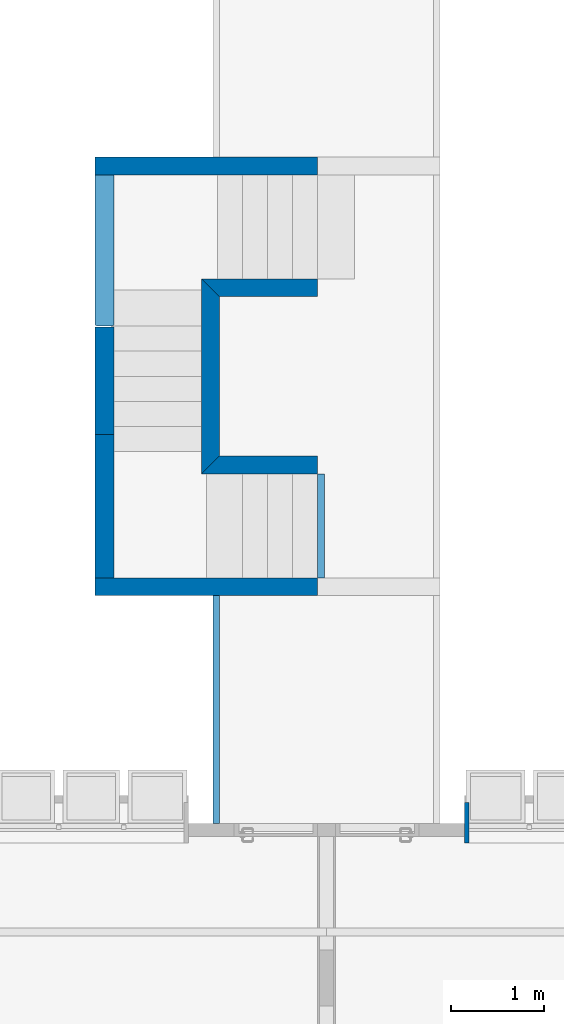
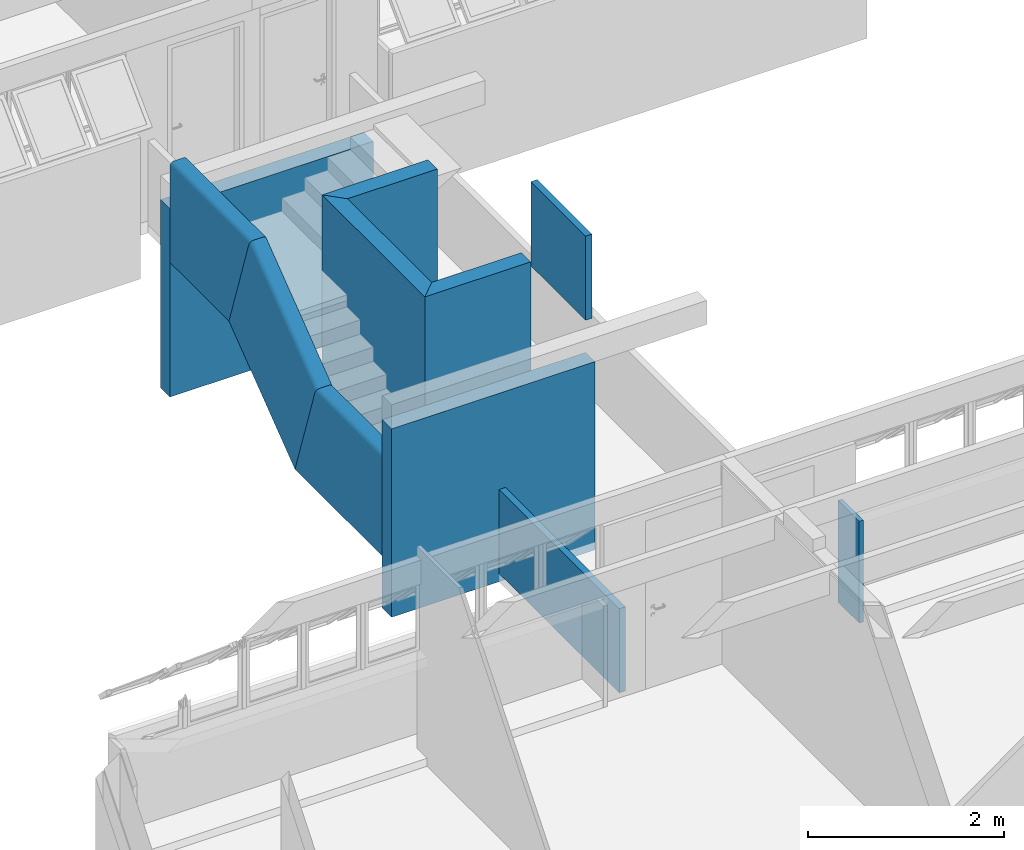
# One storey, part 14 of 38: 11 walls, 1 element without a shape of its own.
"""IFC2X3 building model written with IfcOpenShell, lengths in millimetres."""

from ifc_helpers import new_model, entity, si_unit, converted_unit, derived_unit, money_unit, direction, frame, origin_with_axes, place, context, subcontext, project, spatial, polyline, outline, extrude, faceted_brep, source, transform, mapped, material, layer, layer_set, layer_usage, type_object, element, aggregate, save


model = new_model("IFC2X3")

# Units and contexts
model_context = context("Model", 3, precision=0.01, world=origin_with_axes(), true_north=direction((0.0, 1.0)))
body_context = subcontext(model_context, "Body", "Model", "MODEL_VIEW")
ifc_project = project(units=[si_unit("LENGTHUNIT", "METRE", prefix="MILLI"), si_unit("AREAUNIT", "SQUARE_METRE"), si_unit("VOLUMEUNIT", "CUBIC_METRE"), converted_unit("PLANEANGLEUNIT", "DEGREE", entity("IfcPlaneAngleMeasure", 0.0174532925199), si_unit("PLANEANGLEUNIT", "RADIAN"), dimensions=[0, 0, 0, 0, 0, 0, 0]), money_unit("USD"), converted_unit("TIMEUNIT", "Year", entity("IfcTimeMeasure", 31556926.0), si_unit("TIMEUNIT", "SECOND"), dimensions=[0, 0, 1, 0, 0, 0, 0]), si_unit("MASSUNIT", "GRAM", prefix="KILO"), si_unit("THERMODYNAMICTEMPERATUREUNIT", "DEGREE_CELSIUS"), si_unit("LUMINOUSINTENSITYUNIT", "LUMEN"), si_unit("ENERGYUNIT", "JOULE", prefix="MEGA"), derived_unit("THERMALCONDUCTANCEUNIT", [(si_unit("POWERUNIT", "WATT"), 1), (si_unit("LENGTHUNIT", "METRE"), -1), (si_unit("THERMODYNAMICTEMPERATUREUNIT", "KELVIN"), -1)]), derived_unit("SPECIFICHEATCAPACITYUNIT", [(si_unit("ENERGYUNIT", "JOULE"), 1), (si_unit("MASSUNIT", "GRAM", prefix="KILO"), -1), (si_unit("THERMODYNAMICTEMPERATUREUNIT", "KELVIN"), -1)]), derived_unit("MASSDENSITYUNIT", [(si_unit("MASSUNIT", "GRAM", prefix="KILO"), 1), (si_unit("VOLUMEUNIT", "CUBIC_METRE"), -1)])], contexts=[model_context])

# Site, building, storey
site_placement = place(None, origin_with_axes())
site = spatial("IfcSite", under=ifc_project, at=site_placement, Name="Local", CompositionType="ELEMENT")
building_placement = place(site_placement, origin_with_axes())
building = spatial("IfcBuilding", under=site, at=building_placement, Name="Construção", CompositionType="ELEMENT")
storey_placement = place(building_placement, frame((0.0, 0.0, 2650.0), z_axis=(0.0, 0.0, 1.0), x_axis=(1.0, 0.0, 0.0)))
storey = spatial("IfcBuildingStorey", under=building, at=storey_placement, Name="Segundo Pavimento", CompositionType="ELEMENT", Elevation=2650.0)

# Walls
ifc_material_1 = material(Name="GENÉRICO - VEDAÇÃO EXTERNA")
ifc_layer_1 = layer(ifc_material_1, 190.0, ventilated="UNKNOWN")
ifc_layer_set_1 = layer_set([ifc_layer_1], Name="GENÉRICO - VEDAÇÃO EXTERNA 190")
ifc_layer_usage_1 = layer_usage(ifc_layer_set_1, "AXIS2", "NEGATIVE", 0.0)
wall_type_1 = type_object("IfcWallType", Name="GENÉRICO - VEDAÇÃO EXTERNA 190", PredefinedType="NOTDEFINED")
wall_1_placement = place(storey_placement, frame((4890.0, 15440.0, -150.0), z_axis=(0.0, 0.0, 1.0), x_axis=(1.0, 0.0, 0.0)))
element("IfcWallStandardCase", 1, at=wall_1_placement, inside=storey, type_object=wall_type_1, material=ifc_layer_usage_1, Name="CIRC2-PAREDE-020", context=body_context, shape_type="SweptSolid", body=[
    extrude(outline(polyline([(0.0, -190.0), (2400.0, -190.0), (2400.0, 0.0), (0.0, 0.0), (0.0, -190.0)])), origin_with_axes(), (0.0, 0.0, 1.0), 2350.0),
])
ifc_layer_usage_2 = layer_usage(ifc_layer_set_1, "AXIS2", "NEGATIVE", 0.0)
wall_2_placement = place(storey_placement, frame((4890.0, 10910.0, -150.0), z_axis=(0.0, 0.0, 1.0), x_axis=(1.0, 0.0, 0.0)))
element("IfcWallStandardCase", 2, at=wall_2_placement, inside=storey, type_object=wall_type_1, material=ifc_layer_usage_2, Name="CIRC2-PAREDE-021", context=body_context, shape_type="SweptSolid", body=[
    extrude(outline(polyline([(0.0, -190.0), (2400.0, -190.0), (2400.0, 0.0), (0.0, 0.0), (0.0, -190.0)])), origin_with_axes(), (0.0, 0.0, 1.0), 2350.0),
])
ifc_material_2 = material(Name="Concreto Armado Moldado in Loco - Estrutural")
ifc_layer_2 = layer(ifc_material_2, 190.0, ventilated="UNKNOWN")
ifc_layer_set_2 = layer_set([ifc_layer_2], Name="Concreto Armado Moldado in Loco - Estrutural 190")
ifc_layer_usage_3 = layer_usage(ifc_layer_set_2, "AXIS2", "NEGATIVE", 0.0)
wall_type_2 = type_object("IfcWallType", Name="Concreto Armado Moldado in Loco - Estrutural 190", PredefinedType="NOTDEFINED")
wall_3_placement = place(storey_placement, frame((6230.0, 13940.0, -50.0), z_axis=(0.0, 0.0, 1.0), x_axis=(0.0, -1.0, 0.0)))
element("IfcWallStandardCase", 3, at=wall_3_placement, inside=storey, type_object=wall_type_2, material=ifc_layer_usage_3, Name="CIRC2-PAREDE-022", context=body_context, shape_type="SweptSolid", body=[
    extrude(outline(polyline([(-190.0, -190.0), (1910.0, -190.0), (1720.0, 0.0), (0.0, 0.0), (-190.0, -190.0)])), origin_with_axes(), (0.0, 0.0, 1.0), 2700.0),
])
ifc_layer_usage_4 = layer_usage(ifc_layer_set_2, "AXIS2", "NEGATIVE", 0.0)
wall_4_placement = place(storey_placement, frame((6230.0, 12220.0, -50.0), z_axis=(0.0, 0.0, 1.0), x_axis=(1.0, 0.0, 0.0)))
element("IfcWallStandardCase", 4, at=wall_4_placement, inside=storey, type_object=wall_type_2, material=ifc_layer_usage_4, Name="CIRC2-PAREDE-023", context=body_context, shape_type="SweptSolid", body=[
    extrude(outline(polyline([(-190.0, -190.0), (1060.0, -190.0), (1060.0, 0.0), (0.0, 0.0), (-190.0, -190.0)])), origin_with_axes(), (0.0, 0.0, 1.0), 2700.0),
])
ifc_layer_usage_5 = layer_usage(ifc_layer_set_2, "AXIS2", "NEGATIVE", 0.0)
wall_5_placement = place(storey_placement, frame((7290.0, 13940.0, -50.0), z_axis=(0.0, 0.0, 1.0), x_axis=(-1.0, 0.0, 0.0)))
element("IfcWallStandardCase", 5, at=wall_5_placement, inside=storey, type_object=wall_type_2, material=ifc_layer_usage_5, Name="CIRC2-PAREDE-024", context=body_context, shape_type="SweptSolid", body=[
    extrude(outline(polyline([(0.0, -190.0), (1250.0, -190.0), (1060.0, 0.0), (0.0, 0.0), (0.0, -190.0)])), origin_with_axes(), (0.0, 0.0, 1.0), 2700.0),
])

# Railing, walls
railing_type = type_object("IfcRailingType", Name="Tipo de Guarda-Corpo", PredefinedType="NOTDEFINED")
railing_placement = place(storey_placement, frame((4890.0, 10910.0, 500.0), z_axis=(0.0, 0.0, 1.0), x_axis=(1.0, 0.0, 0.0)))
railing = element("IfcRailing", 6, at=railing_placement, inside=storey, type_object=railing_type, Name="CIRC2-GC-002", PredefinedType="NOTDEFINED")
ifc_material_3 = material(Name="Concreto")
wall_type_3 = type_object("IfcWallType", Name="IfcWall", PredefinedType="NOTDEFINED")
shared_shape_1 = source(origin_with_axes(), body_context, "Body", "Brep", [
    faceted_brep([(102.555801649, 0.0, 1250.0), (155.222345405, 0.0, 1250.0), (155.222345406, 1360.0, 1250.0), (102.555801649, 1360.0, 1250.0), (102.555801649, 0.0, 0.0), (205.111603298, 0.0, 0.0), (205.111603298, 0.0, 1203.32595053), (203.863102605, 0.0, 1211.57915105), (201.259002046, 0.0, 1219.50964493), (197.371876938, 0.0, 1226.89641224), (192.310060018, 0.0, 1233.53358652), (186.214622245, 0.0, 1239.23619217), (179.255441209, 0.0, 1243.8452997), (171.626466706, 0.0, 1247.23245499), (163.540315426, 0.0, 1249.30325927), (163.540315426, 1360.23554641, 1249.30325927), (171.626466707, 1360.93562106, 1247.23245499), (179.25544121, 1362.08071312, 1243.8452997), (186.214622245, 1363.6389093, 1239.23619217), (192.310060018, 1365.56678325, 1233.53358652), (197.371876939, 1367.81060584, 1226.89641224), (201.259002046, 1370.30784257, 1219.50964493), (203.863102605, 1372.98889638, 1211.57915105), (205.111603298, 1375.77904728, 1203.32595053), (205.111603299, 1782.58619778, 0.0), (102.555801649, 1782.58619778, 0.0)], [[[0, 1, 2, 3]], [[0, 4, 5, 6, 7, 8, 9, 10, 11, 12, 13, 14, 1]], [[1, 14, 15, 2]], [[3, 2, 15, 16, 17, 18, 19, 20, 21, 22, 23, 24, 25]], [[4, 0, 3, 25]], [[5, 4, 25, 24]], [[6, 5, 24, 23]], [[7, 6, 23, 22]], [[8, 7, 22, 21]], [[9, 8, 21, 20]], [[10, 9, 20, 19]], [[11, 10, 19, 18]], [[12, 11, 18, 17]], [[13, 12, 17, 16]], [[14, 13, 16, 15]]]),
    faceted_brep([(102.555801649, 0.0, 0.0), (0.0, 0.0, 0.0), (2.67611799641e-10, 1782.58619778, 0.0), (102.555801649, 1782.58619778, 0.0), (102.555801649, 0.0, 1250.0), (49.8892578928, 0.0, 1250.0), (41.5712878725, 0.0, 1249.30325927), (33.485136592, 0.0, 1247.23245499), (25.8561620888, 0.0, 1243.8452997), (18.8969810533, 0.0, 1239.23619217), (12.8015432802, 0.0, 1233.53358652), (7.73972635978, 0.0, 1226.89641224), (3.85260125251, 0.0, 1219.50964493), (1.24850069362, 0.0, 1211.57915105), (0.0, 0.0, 1203.32595053), (2.06578442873e-10, 1375.77904728, 1203.32595053), (1.24850069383, 1372.98889638, 1211.57915105), (3.85260125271, 1370.30784257, 1219.50964493), (7.73972635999, 1367.81060584, 1226.89641224), (12.8015432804, 1365.56678325, 1233.53358652), (18.8969810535, 1363.6389093, 1239.23619217), (25.856162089, 1362.08071312, 1243.8452997), (33.4851365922, 1360.93562106, 1247.23245499), (41.5712878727, 1360.23554641, 1249.30325927), (49.889257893, 1360.0, 1250.0), (102.555801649, 1360.0, 1250.0)], [[[0, 1, 2, 3]], [[0, 4, 5, 6, 7, 8, 9, 10, 11, 12, 13, 14, 1]], [[1, 14, 15, 2]], [[3, 2, 15, 16, 17, 18, 19, 20, 21, 22, 23, 24, 25]], [[4, 0, 3, 25]], [[5, 4, 25, 24]], [[6, 5, 24, 23]], [[7, 6, 23, 22]], [[8, 7, 22, 21]], [[9, 8, 21, 20]], [[10, 9, 20, 19]], [[11, 10, 19, 18]], [[12, 11, 18, 17]], [[13, 12, 17, 16]], [[14, 13, 16, 15]]]),
])
wall_6_placement = place(railing_placement, frame((1.02140518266e-10, 680.0, -16.7165309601), z_axis=(0.0, 0.0, 1.0), x_axis=(1.0, 0.0, 0.0)))
wall_6 = element("IfcWall", 7, at=wall_6_placement, type_object=wall_type_3, material=ifc_material_3, Name="CIRC2-GC - Barra Superior - 001", context=body_context, shape_type="MappedRepresentation", body=[
    mapped(shared_shape_1, transform((-1.02140518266e-10, -680.0, 16.7165309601))),
])
shared_shape_2 = source(origin_with_axes(), body_context, "Body", "Brep", [
    faceted_brep([(102.555801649, 0.0, 1250.0), (155.222345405, 0.0, 1250.0), (155.222345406, 1350.0, 2280.57075871), (102.555801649, 1350.0, 2280.57075871), (102.555801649, 422.586197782, 0.0), (205.111603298, 422.586197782, 0.0), (205.111603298, 15.7790472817, 1203.32595053), (203.863102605, 12.9888963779, 1211.57915105), (201.259002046, 10.3078425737, 1219.50964493), (197.371876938, 7.81060584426, 1226.89641224), (192.310060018, 5.56678325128, 1233.53358652), (186.214622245, 3.6389092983, 1239.23619217), (179.255441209, 2.08071311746, 1243.8452997), (171.626466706, 0.935621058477, 1247.23245499), (163.540315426, 0.235546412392, 1249.30325927), (163.540315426, 1350.23554641, 2279.87401798), (171.626466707, 1350.93562106, 2277.8032137), (179.25544121, 1352.08071312, 2274.41605841), (186.214622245, 1353.6389093, 2269.80695088), (192.310060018, 1355.56678325, 2264.10434523), (197.371876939, 1357.81060584, 2257.46717095), (201.259002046, 1360.30784257, 2250.08040364), (203.863102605, 1362.98889638, 2242.14990976), (205.111603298, 1365.77904728, 2233.89670923), (205.111603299, 1772.58619778, 1030.57075871), (102.555801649, 1772.58619778, 1030.57075871)], [[[0, 1, 2, 3]], [[0, 4, 5, 6, 7, 8, 9, 10, 11, 12, 13, 14, 1]], [[1, 14, 15, 2]], [[3, 2, 15, 16, 17, 18, 19, 20, 21, 22, 23, 24, 25]], [[4, 0, 3, 25]], [[5, 4, 25, 24]], [[6, 5, 24, 23]], [[7, 6, 23, 22]], [[8, 7, 22, 21]], [[9, 8, 21, 20]], [[10, 9, 20, 19]], [[11, 10, 19, 18]], [[12, 11, 18, 17]], [[13, 12, 17, 16]], [[14, 13, 16, 15]]]),
    faceted_brep([(102.555801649, 422.586197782, 0.0), (0.0, 422.586197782, 0.0), (2.65861798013e-10, 1772.58619778, 1030.57075871), (102.555801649, 1772.58619778, 1030.57075871), (102.555801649, 0.0, 1250.0), (49.8892578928, 0.0, 1250.0), (41.5712878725, 0.23554641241, 1249.30325927), (33.485136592, 0.935621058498, 1247.23245499), (25.8561620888, 2.08071311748, 1243.8452997), (18.8969810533, 3.63890929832, 1239.23619217), (12.8015432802, 5.5667832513, 1233.53358652), (7.73972635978, 7.81060584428, 1226.89641224), (3.85260125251, 10.3078425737, 1219.50964493), (1.24850069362, 12.9888963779, 1211.57915105), (0.0, 15.7790472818, 1203.32595053), (2.04803070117e-10, 1365.77904728, 2233.89670923), (1.24850069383, 1362.98889638, 2242.14990976), (3.85260125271, 1360.30784257, 2250.08040364), (7.73972635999, 1357.81060584, 2257.46717095), (12.8015432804, 1355.56678325, 2264.10434523), (18.8969810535, 1353.6389093, 2269.80695088), (25.856162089, 1352.08071312, 2274.41605841), (33.4851365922, 1350.93562106, 2277.8032137), (41.5712878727, 1350.23554641, 2279.87401798), (49.889257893, 1350.0, 2280.57075871), (102.555801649, 1350.0, 2280.57075871)], [[[0, 1, 2, 3]], [[0, 4, 5, 6, 7, 8, 9, 10, 11, 12, 13, 14, 1]], [[1, 14, 15, 2]], [[3, 2, 15, 16, 17, 18, 19, 20, 21, 22, 23, 24, 25]], [[4, 0, 3, 25]], [[5, 4, 25, 24]], [[6, 5, 24, 23]], [[7, 6, 23, 22]], [[8, 7, 22, 21]], [[9, 8, 21, 20]], [[10, 9, 20, 19]], [[11, 10, 19, 18]], [[12, 11, 18, 17]], [[13, 12, 17, 16]], [[14, 13, 16, 15]]]),
])
wall_7_placement = place(railing_placement, frame((3.05533376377e-10, 2035.0, -16.7165309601), z_axis=(0.0, 0.0, 1.0), x_axis=(1.0, 0.0, 0.0)))
wall_7 = element("IfcWall", 8, at=wall_7_placement, type_object=wall_type_3, material=ifc_material_3, Name="CIRC2-GC - Barra Superior - 001", context=body_context, shape_type="MappedRepresentation", body=[
    mapped(shared_shape_2, transform((-1.01252339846e-10, -675.0, 16.7165309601))),
])
shared_shape_3 = source(origin_with_axes(), body_context, "Body", "Brep", [
    faceted_brep([(102.555801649, 0.0, 1250.0), (155.222345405, 0.0, 1250.0), (155.222345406, 1630.0, 1250.0), (102.555801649, 1630.0, 1250.0), (102.555801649, 422.586197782, 0.0), (205.111603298, 422.586197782, 0.0), (205.111603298, 15.7790472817, 1203.32595053), (203.863102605, 12.9888963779, 1211.57915105), (201.259002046, 10.3078425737, 1219.50964493), (197.371876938, 7.81060584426, 1226.89641224), (192.310060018, 5.56678325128, 1233.53358652), (186.214622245, 3.6389092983, 1239.23619217), (179.255441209, 2.08071311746, 1243.8452997), (171.626466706, 0.935621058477, 1247.23245499), (163.540315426, 0.235546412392, 1249.30325927), (163.540315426, 1630.0, 1249.30325927), (171.626466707, 1630.0, 1247.23245499), (179.25544121, 1630.0, 1243.8452997), (186.214622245, 1630.0, 1239.23619217), (192.310060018, 1630.0, 1233.53358652), (197.371876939, 1630.0, 1226.89641224), (201.259002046, 1630.0, 1219.50964493), (203.863102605, 1630.0, 1211.57915105), (205.111603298, 1630.0, 1203.32595053), (205.111603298, 1630.0, 0.0), (102.555801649, 1630.0, 0.0)], [[[0, 1, 2, 3]], [[0, 4, 5, 6, 7, 8, 9, 10, 11, 12, 13, 14, 1]], [[1, 14, 15, 2]], [[3, 2, 15, 16, 17, 18, 19, 20, 21, 22, 23, 24, 25]], [[4, 0, 3, 25]], [[5, 4, 25, 24]], [[6, 5, 24, 23]], [[7, 6, 23, 22]], [[8, 7, 22, 21]], [[9, 8, 21, 20]], [[10, 9, 20, 19]], [[11, 10, 19, 18]], [[12, 11, 18, 17]], [[13, 12, 17, 16]], [[14, 13, 16, 15]]]),
    faceted_brep([(102.555801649, 422.586197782, 0.0), (0.0, 422.586197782, 0.0), (2.45081732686e-10, 1630.0, 0.0), (102.555801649, 1630.0, 0.0), (102.555801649, 0.0, 1250.0), (49.8892578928, 0.0, 1250.0), (41.5712878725, 0.23554641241, 1249.30325927), (33.485136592, 0.935621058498, 1247.23245499), (25.8561620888, 2.08071311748, 1243.8452997), (18.8969810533, 3.63890929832, 1239.23619217), (12.8015432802, 5.5667832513, 1233.53358652), (7.73972635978, 7.81060584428, 1226.89641224), (3.85260125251, 10.3078425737, 1219.50964493), (1.24850069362, 12.9888963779, 1211.57915105), (0.0, 15.7790472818, 1203.32595053), (2.45067854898e-10, 1630.0, 1203.32595053), (1.24850069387, 1630.0, 1211.57915105), (3.85260125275, 1630.0, 1219.50964493), (7.73972636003, 1630.0, 1226.89641224), (12.8015432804, 1630.0, 1233.53358652), (18.8969810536, 1630.0, 1239.23619217), (25.8561620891, 1630.0, 1243.8452997), (33.4851365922, 1630.0, 1247.23245499), (41.5712878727, 1630.0, 1249.30325927), (49.8892578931, 1630.0, 1250.0), (102.555801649, 1630.0, 1250.0)], [[[0, 1, 2, 3]], [[0, 4, 5, 6, 7, 8, 9, 10, 11, 12, 13, 14, 1]], [[1, 14, 15, 2]], [[3, 2, 15, 16, 17, 18, 19, 20, 21, 22, 23, 24, 25]], [[4, 0, 3, 25]], [[5, 4, 25, 24]], [[6, 5, 24, 23]], [[7, 6, 23, 22]], [[8, 7, 22, 21]], [[9, 8, 21, 20]], [[10, 9, 20, 19]], [[11, 10, 19, 18]], [[12, 11, 18, 17]], [[13, 12, 17, 16]], [[14, 13, 16, 15]]]),
])
wall_8_placement = place(railing_placement, frame((5.29354338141e-10, 3525.0, 1013.85422775), z_axis=(0.0, 0.0, 1.0), x_axis=(1.0, 0.0, 0.0)))
wall_8 = element("IfcWall", 9, at=wall_8_placement, type_object=wall_type_3, material=ifc_material_3, Name="CIRC2-GC - Barra Superior - 001", context=body_context, shape_type="MappedRepresentation", body=[
    mapped(shared_shape_3, transform((-1.22568621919e-10, -815.0, 16.7165309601))),
])
aggregate(railing, [wall_6, wall_7, wall_8])

# Walls
ifc_layer_3 = layer(ifc_material_2, 50.0, ventilated="UNKNOWN")
ifc_layer_set_3 = layer_set([ifc_layer_3], Name="Concreto Armado Moldado in Loco - Estrutural 50")
ifc_layer_usage_6 = layer_usage(ifc_layer_set_3, "AXIS2", "NEGATIVE", 50.0)
wall_type_4 = type_object("IfcWallType", Name="Concreto Armado Moldado in Loco - Estrutural 50", PredefinedType="NOTDEFINED")
wall_9_placement = place(storey_placement, frame((8920.0, 8054.99999866, 0.0), z_axis=(0.0, 0.0, 1.0), x_axis=(0.0, 1.0, 0.0)))
element("IfcWallStandardCase", 10, at=wall_9_placement, inside=storey, type_object=wall_type_4, material=ifc_layer_usage_6, Name="APTO6-PAREDE-016", context=body_context, shape_type="SweptSolid", body=[
    extrude(outline(polyline([(0.0, 0.0), (435.0, 0.0), (435.0, 50.0), (0.0, 50.0), (0.0, 0.0)])), origin_with_axes(), (0.0, 0.0, 1.0), 1270.0),
])
ifc_layer_4 = layer(ifc_material_1, 75.0, ventilated="UNKNOWN")
ifc_layer_set_4 = layer_set([ifc_layer_4], Name="GENÉRICO - VEDAÇÃO EXTERNA 75")
ifc_layer_usage_7 = layer_usage(ifc_layer_set_4, "AXIS2", "NEGATIVE", 0.0)
wall_type_5 = type_object("IfcWallType", Name="GENÉRICO - VEDAÇÃO EXTERNA 75", PredefinedType="NOTDEFINED")
wall_10_placement = place(storey_placement, frame((7290.00006035, 10910.0, 2600.0), z_axis=(0.0, 0.0, 1.0), x_axis=(-5.38837173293e-08, 1.0, 0.0)))
element("IfcWallStandardCase", 11, at=wall_10_placement, inside=storey, type_object=wall_type_5, material=ifc_layer_usage_7, Name="PAREDE-040", context=body_context, shape_type="SweptSolid", body=[
    extrude(outline(polyline([(0.0, -75.0), (1120.0, -75.0), (1120.0, 0.0), (0.0, 0.0), (0.0, -75.0)])), origin_with_axes(), (0.0, 0.0, 1.0), 1050.0),
])
ifc_layer_usage_8 = layer_usage(ifc_layer_set_4, "AXIS2", "NEGATIVE", 0.0)
wall_11_placement = place(storey_placement, frame((6160.0, 8265.0, -50.0), z_axis=(0.0, 0.0, 1.0), x_axis=(0.0, 1.0, 0.0)))
element("IfcWallStandardCase", 12, at=wall_11_placement, inside=storey, type_object=wall_type_5, material=ifc_layer_usage_8, Name="CIRC2-PAREDE-025", context=body_context, shape_type="SweptSolid", body=[
    extrude(outline(polyline([(0.0, -75.0), (2455.0, -75.0), (2455.0, 0.0), (0.0, 0.0), (0.0, -75.0)])), origin_with_axes(), (0.0, 0.0, 1.0), 1050.0),
])

save(model, "model.ifc")
